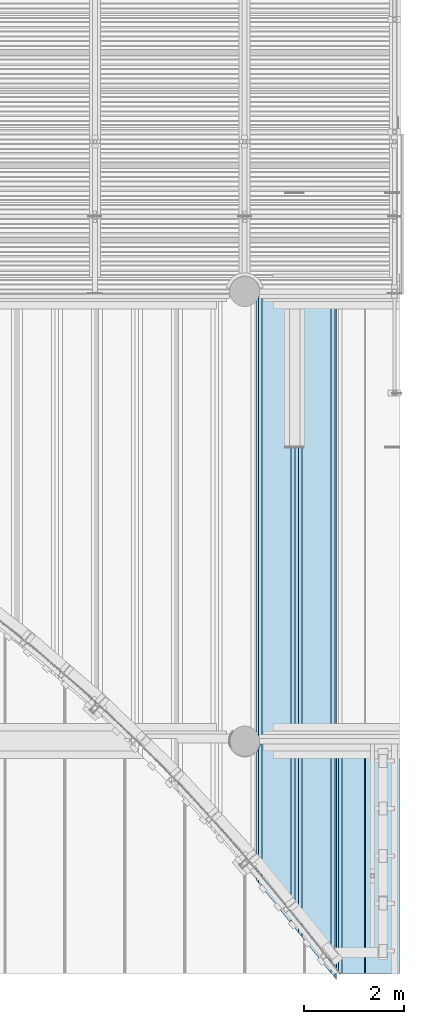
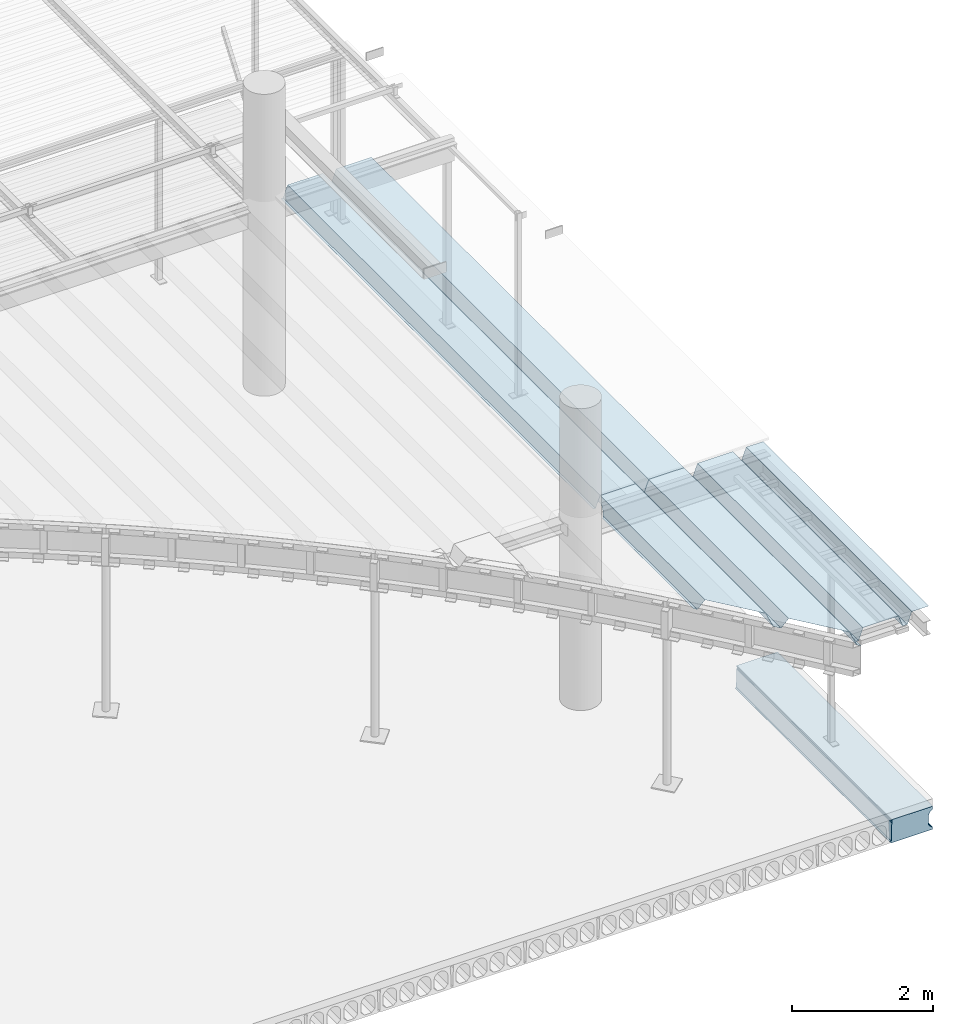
# One storey, part 73 of 98: 4 slabs.
"""IFC2X3 building model written with IfcOpenShell, lengths in millimetres."""

from ifc_helpers import new_model, entity, si_unit, converted_unit, derived_unit, direction, frame, origin_with_axes, place, context, subcontext, project, spatial, faceted_brep, material, type_object, element, save


model = new_model("IFC2X3")

# Units and contexts
model_context = context("Model", 3, precision=0.01, world=frame((0.0, 4.29681676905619e-09, 0.0)), true_north=direction((4.01073788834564e-13, 1.0)))
plan_context = context("Plan", 3, precision=0.01, world=frame((0.0, 4.29681676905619e-09, 0.0)), true_north=direction((4.01073788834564e-13, 1.0)))
body_context = subcontext(model_context, "Body", "Model", "MODEL_VIEW")
ifc_project = project(units=[converted_unit("PLANEANGLEUNIT", "DEGREE", entity("IfcPositiveLengthMeasure", 0.0174532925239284), si_unit("PLANEANGLEUNIT", "RADIAN"), dimensions=[0, 0, 0, 0, 0, 0, 0]), si_unit("AREAUNIT", "SQUARE_METRE"), si_unit("LENGTHUNIT", "METRE", prefix="MILLI"), si_unit("MASSUNIT", "GRAM", prefix="KILO"), si_unit("POWERUNIT", "WATT"), si_unit("PRESSUREUNIT", "PASCAL"), si_unit("FORCEUNIT", "NEWTON", prefix="KILO"), si_unit("ELECTRICCURRENTUNIT", "AMPERE"), si_unit("THERMODYNAMICTEMPERATUREUNIT", "DEGREE_CELSIUS"), si_unit("TIMEUNIT", "SECOND"), si_unit("VOLUMEUNIT", "CUBIC_METRE"), derived_unit("LINEARVELOCITYUNIT", [(si_unit("LENGTHUNIT", "METRE"), 1), (si_unit("TIMEUNIT", "SECOND"), -1)]), derived_unit("VOLUMETRICFLOWRATEUNIT", [(si_unit("VOLUMEUNIT", "CUBIC_METRE"), 1), (si_unit("TIMEUNIT", "SECOND"), -1)]), derived_unit("THERMALTRANSMITTANCEUNIT", [(si_unit("POWERUNIT", "WATT"), 1), (si_unit("THERMODYNAMICTEMPERATUREUNIT", "KELVIN"), -1), (si_unit("AREAUNIT", "SQUARE_METRE"), -1)])], contexts=[model_context, plan_context])

# Site, building, storey
site_placement = place(None, frame((0.0, -4.29681676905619e-09, 0.0), z_axis=(0.0, 0.0, 1.0), x_axis=(1.0, 0.0, 0.0)))
site = spatial("IfcSite", under=ifc_project, at=site_placement, Name="Gardermoen", CompositionType="ELEMENT")
building_placement = place(site_placement, frame((0.0, 4.29681676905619e-09, 0.0), z_axis=(0.0, 0.0, 1.0), x_axis=(1.0, 0.0, 0.0)))
building = spatial("IfcBuilding", under=site, at=building_placement, Name="TS", CompositionType="ELEMENT")
storey_placement = place(building_placement, origin_with_axes())
storey = spatial("IfcBuildingStorey", under=building, at=storey_placement, Name="D", CompositionType="ELEMENT", Elevation=0.0)

# Slabs
slab_type_1 = type_object("IfcSlabType", Name="HD400", PredefinedType="NOTDEFINED")
slab_1_placement = place(storey_placement, frame((531999.999766, 396739.995625, 203600.0), z_axis=(0.0, 0.0, 1.0), x_axis=(0.0, 1.0, 0.0)))
element("IfcSlab", 1, at=slab_1_placement, inside=storey, type_object=slab_type_1, Name="HULLDEKKE", ObjectType="HD400", PredefinedType="FLOOR", context=body_context, shape_type="Brep", body=[
    faceted_brep([(4105.68103395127, 600.0, -180.0), (4105.68103395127, 600.0, -190.0), (8520.0, 600.0, -190.0), (8520.0, 600.0, -180.0), (4105.68103395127, 585.0, -170.0), (8520.0, 585.0, -170.0), (4105.68103395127, 577.5, 145.0), (8520.0, 577.5, 145.0), (4105.68103395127, 570.0, 160.0), (8520.0, 570.0, 160.0), (4105.68103395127, 577.5, 175.0), (8520.0, 577.5, 175.0), (4105.68103395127, 577.5, 200.0), (8520.0, 577.5, 200.0), (8520.0, -95.0002340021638, 200.0), (4105.68103395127, -95.0002340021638, 200.0), (4105.68103395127, 583.380004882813, -200.0), (4105.68103395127, -95.0002340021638, -200.0), (8520.0, -95.0002340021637, -200.0), (8520.0, 583.380004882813, -200.0), (8520.0, -95.0002340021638, -160.0), (4105.68103395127, -95.0002340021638, -160.0), (4105.68103395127, -82.5, -160.0), (8520.0, -82.5, -160.0), (4105.68103395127, -94.8092647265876, 150.524499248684), (4105.68103395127, -95.0002340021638, 150.599015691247), (8520.0, -95.0002340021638, 150.599015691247), (8520.0, -94.8092647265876, 150.524499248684), (4105.68103395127, -86.4559182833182, 146.440797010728), (8520.0, -86.4559182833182, 146.440797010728), (4105.68103395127, -78.4683322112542, 141.681228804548), (8520.0, -78.4683322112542, 141.681228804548), (4105.68103395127, -70.9010698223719, 136.278307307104), (8520.0, -70.9010698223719, 136.278307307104), (4105.68103395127, -63.8058231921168, 130.268939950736), (8520.0, -63.8058231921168, 130.268939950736), (4105.68103395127, -57.2310600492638, 123.694176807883), (8520.0, -57.2310600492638, 123.694176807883), (4105.68103395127, -51.2216926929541, 116.598930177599), (8520.0, -51.2216926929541, 116.598930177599), (4105.68103395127, -45.8187711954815, 109.031667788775), (8520.0, -45.8187711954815, 109.031667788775), (4105.68103395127, -41.0592029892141, 101.044081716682), (8520.0, -41.0592029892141, 101.044081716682), (4105.68103395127, -36.9755007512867, 92.6907352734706), (8520.0, -36.9755007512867, 92.6907352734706), (4105.68103395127, -33.5955603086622, 84.028690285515), (8520.0, -33.5955603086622, 84.028690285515), (4105.68103395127, -30.942470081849, 75.1171173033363), (8520.0, -30.942470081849, 75.1171173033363), (4105.68103395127, -29.0343533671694, 66.0168914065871), (8520.0, -29.0343533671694, 66.0168914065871), (4105.68103395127, -27.8842445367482, 56.7901763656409), (8520.0, -27.8842445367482, 56.7901763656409), (4105.68103395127, -27.5, 47.5), (8520.0, -27.5, 47.5), (4105.68103395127, -27.5, -105.0), (8520.0, -27.5, -105.0), (4105.68103395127, 82.5, -160.0), (4105.68103395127, 197.5, -160.0), (8520.0, 197.5, -160.0), (8520.0, 82.5, -160.0), (4105.68103395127, 27.5000000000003, -105.0), (8520.0, 27.5, -105.0), (4105.68103395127, 27.5000000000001, 47.5000000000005), (8520.0, 27.5, 47.5), (4105.68103395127, 27.8842445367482, 56.7901763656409), (8520.0, 27.8842445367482, 56.7901763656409), (4105.68103395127, 29.0343533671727, 66.0168914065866), (8520.0, 29.0343533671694, 66.0168914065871), (4105.68103395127, 30.9424700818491, 75.1171173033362), (8520.0, 30.942470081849, 75.1171173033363), (4105.68103395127, 33.5955603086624, 84.0286902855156), (8520.0, 33.5955603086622, 84.028690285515), (4105.68103395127, 36.9755007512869, 92.6907352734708), (8520.0, 36.9755007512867, 92.6907352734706), (4105.68103395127, 41.0592029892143, 101.044081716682), (8520.0, 41.0592029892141, 101.044081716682), (4105.68103395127, 45.8187711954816, 109.031667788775), (8520.0, 45.8187711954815, 109.031667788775), (4105.68103395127, 51.2216926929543, 116.598930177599), (8520.0, 51.2216926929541, 116.598930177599), (4105.68103395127, 57.231060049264, 123.694176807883), (8520.0, 57.2310600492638, 123.694176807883), (4105.68103395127, 63.8058231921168, 130.268939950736), (8520.0, 63.8058231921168, 130.268939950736), (4105.68103395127, 70.9010698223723, 136.278307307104), (8520.0, 70.9010698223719, 136.278307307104), (4105.68103395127, 78.4683322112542, 141.681228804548), (8520.0, 78.4683322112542, 141.681228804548), (4105.68103395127, 86.4559182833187, 146.440797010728), (8520.0, 86.4559182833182, 146.440797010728), (4105.68103395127, 94.8092647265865, 150.524499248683), (8520.0, 94.8092647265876, 150.524499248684), (4105.68103395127, 103.471309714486, 153.904439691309), (8520.0, 103.471309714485, 153.904439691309), (4105.68103395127, 112.382882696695, 156.55752991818), (8520.0, 112.382882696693, 156.55752991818), (4105.68103395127, 121.483108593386, 158.465646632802), (8520.0, 121.483108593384, 158.465646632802), (4105.68103395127, 130.70982363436, 159.615755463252), (8520.0, 130.709823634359, 159.615755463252), (4105.68103395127, 140.0, 160.0), (8520.0, 140.0, 160.0), (4105.68103395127, 149.290176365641, 159.615755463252), (8520.0, 149.290176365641, 159.615755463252), (4105.68103395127, 158.516891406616, 158.465646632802), (8520.0, 158.516891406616, 158.465646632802), (4105.68103395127, 167.617117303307, 156.55752991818), (8520.0, 167.617117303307, 156.55752991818), (4105.68103395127, 176.528690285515, 153.904439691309), (8520.0, 176.528690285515, 153.904439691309), (4105.68103395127, 185.190735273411, 150.524499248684), (8520.0, 185.190735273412, 150.524499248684), (4105.68103395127, 193.544081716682, 146.440797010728), (8520.0, 193.544081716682, 146.440797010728), (4105.68103395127, 201.531667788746, 141.681228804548), (8520.0, 201.531667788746, 141.681228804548), (4105.68103395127, 209.098930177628, 136.278307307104), (8520.0, 209.098930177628, 136.278307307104), (4105.68103395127, 216.194176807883, 130.268939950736), (8520.0, 216.194176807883, 130.268939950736), (4105.68103395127, 222.768939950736, 123.694176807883), (8520.0, 222.768939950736, 123.694176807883), (4105.68103395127, 228.778307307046, 116.598930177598), (8520.0, 228.778307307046, 116.598930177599), (4105.68103395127, 234.181228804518, 109.031667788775), (8520.0, 234.181228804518, 109.031667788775), (4105.68103395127, 238.940797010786, 101.044081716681), (8520.0, 238.940797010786, 101.044081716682), (4105.68103395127, 243.024499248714, 92.6907352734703), (8520.0, 243.024499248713, 92.6907352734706), (4105.68103395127, 246.404439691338, 84.0286902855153), (8520.0, 246.404439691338, 84.028690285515), (4105.68103395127, 249.057529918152, 75.1171173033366), (8520.0, 249.057529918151, 75.1171173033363), (4105.68103395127, 250.96564663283, 66.0168914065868), (8520.0, 250.965646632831, 66.0168914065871), (4105.68103395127, 252.115755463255, 56.7901763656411), (8520.0, 252.115755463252, 56.7901763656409), (4105.68103395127, 252.5, 47.4999999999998), (8520.0, 252.5, 47.5), (4105.68103395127, 252.5, -105.0), (8520.0, 252.5, -105.0), (4105.68103395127, 362.5, -160.0), (4105.68103395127, 477.5, -160.0), (8520.0, 477.5, -160.0), (8520.0, 362.5, -160.0), (4105.68103395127, 307.5, -105.0), (8520.0, 307.5, -105.0), (4105.68103395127, 307.5, 47.5000000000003), (8520.0, 307.5, 47.5), (4105.68103395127, 307.884244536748, 56.7901763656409), (8520.0, 307.884244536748, 56.7901763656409), (4105.68103395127, 309.03435336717, 66.0168914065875), (8520.0, 309.034353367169, 66.0168914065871), (4105.68103395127, 310.942470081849, 75.1171173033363), (8520.0, 310.942470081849, 75.1171173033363), (4105.68103395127, 313.595560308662, 84.028690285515), (8520.0, 313.595560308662, 84.028690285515), (4105.68103395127, 316.975500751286, 92.6907352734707), (8520.0, 316.975500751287, 92.6907352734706), (4105.68103395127, 321.059202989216, 101.044081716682), (8520.0, 321.059202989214, 101.044081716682), (4105.68103395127, 325.818771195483, 109.031667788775), (8520.0, 325.818771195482, 109.031667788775), (4105.68103395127, 331.221692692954, 116.598930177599), (8520.0, 331.221692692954, 116.598930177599), (4105.68103395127, 337.231060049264, 123.694176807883), (8520.0, 337.231060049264, 123.694176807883), (4105.68103395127, 343.805823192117, 130.268939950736), (8520.0, 343.805823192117, 130.268939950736), (4105.68103395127, 350.901069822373, 136.278307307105), (8520.0, 350.901069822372, 136.278307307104), (4105.68103395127, 358.468332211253, 141.681228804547), (8520.0, 358.468332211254, 141.681228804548), (4105.68103395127, 366.455918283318, 146.440797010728), (8520.0, 366.455918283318, 146.440797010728), (4105.68103395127, 374.809264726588, 150.524499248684), (8520.0, 374.809264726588, 150.524499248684), (4105.68103395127, 383.471309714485, 153.904439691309), (8520.0, 383.471309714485, 153.904439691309), (4105.68103395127, 392.382882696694, 156.55752991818), (8520.0, 392.382882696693, 156.55752991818), (4105.68103395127, 401.483108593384, 158.465646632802), (8520.0, 401.483108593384, 158.465646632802), (4105.68103395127, 410.70982363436, 159.615755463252), (8520.0, 410.709823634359, 159.615755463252), (4105.68103395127, 420.0, 160.0), (8520.0, 420.0, 160.0), (4105.68103395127, 429.290176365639, 159.615755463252), (8520.0, 429.290176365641, 159.615755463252), (4105.68103395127, 438.516891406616, 158.465646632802), (8520.0, 438.516891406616, 158.465646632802), (4105.68103395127, 447.617117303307, 156.55752991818), (8520.0, 447.617117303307, 156.55752991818), (4105.68103395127, 456.528690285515, 153.904439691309), (8520.0, 456.528690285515, 153.904439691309), (4105.68103395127, 465.190735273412, 150.524499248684), (8520.0, 465.190735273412, 150.524499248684), (4105.68103395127, 473.544081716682, 146.440797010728), (8520.0, 473.544081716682, 146.440797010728), (4105.68103395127, 481.531667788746, 141.681228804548), (8520.0, 481.531667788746, 141.681228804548), (4105.68103395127, 489.098930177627, 136.278307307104), (8520.0, 489.098930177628, 136.278307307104), (4105.68103395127, 496.194176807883, 130.268939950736), (8520.0, 496.194176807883, 130.268939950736), (4105.68103395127, 502.768939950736, 123.694176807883), (8520.0, 502.768939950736, 123.694176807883), (4105.68103395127, 508.778307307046, 116.5989301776), (8520.0, 508.778307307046, 116.598930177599), (4105.68103395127, 514.181228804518, 109.031667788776), (8520.0, 514.181228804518, 109.031667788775), (4105.68103395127, 518.940797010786, 101.044081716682), (8520.0, 518.940797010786, 101.044081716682), (4105.68103395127, 523.024499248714, 92.6907352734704), (8520.0, 523.024499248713, 92.6907352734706), (4105.68103395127, 526.404439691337, 84.028690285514), (8520.0, 526.404439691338, 84.028690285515), (4105.68103395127, 529.057529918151, 75.1171173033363), (8520.0, 529.057529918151, 75.1171173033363), (4105.68103395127, 530.965646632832, 66.0168914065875), (8520.0, 530.965646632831, 66.0168914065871), (4105.68103395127, 532.115755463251, 56.7901763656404), (8520.0, 532.115755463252, 56.7901763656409), (4105.68103395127, 532.499999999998, 47.5000000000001), (8520.0, 532.5, 47.5), (4105.68103395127, 532.5, -105.0), (8520.0, 532.5, -105.0)], [[[0, 1, 2, 3]], [[4, 0, 3, 5]], [[6, 4, 5, 7]], [[8, 6, 7, 9]], [[10, 8, 9, 11]], [[12, 10, 11, 13]], [[14, 15, 12, 13]], [[16, 17, 18, 19]], [[1, 16, 19, 2]], [[20, 21, 22, 23]], [[24, 25, 26, 27]], [[28, 24, 27, 29]], [[30, 28, 29, 31]], [[32, 30, 31, 33]], [[34, 32, 33, 35]], [[36, 34, 35, 37]], [[38, 36, 37, 39]], [[40, 38, 39, 41]], [[42, 40, 41, 43]], [[44, 42, 43, 45]], [[46, 44, 45, 47]], [[48, 46, 47, 49]], [[50, 48, 49, 51]], [[52, 50, 51, 53]], [[54, 52, 53, 55]], [[56, 54, 55, 57]], [[22, 56, 57, 23]], [[58, 59, 60, 61]], [[62, 58, 61, 63]], [[64, 62, 63, 65]], [[66, 64, 65, 67]], [[68, 66, 67, 69]], [[70, 68, 69, 71]], [[72, 70, 71, 73]], [[74, 72, 73, 75]], [[76, 74, 75, 77]], [[78, 76, 77, 79]], [[80, 78, 79, 81]], [[82, 80, 81, 83]], [[84, 82, 83, 85]], [[86, 84, 85, 87]], [[88, 86, 87, 89]], [[90, 88, 89, 91]], [[92, 90, 91, 93]], [[94, 92, 93, 95]], [[96, 94, 95, 97]], [[98, 96, 97, 99]], [[100, 98, 99, 101]], [[102, 100, 101, 103]], [[104, 102, 103, 105]], [[106, 104, 105, 107]], [[108, 106, 107, 109]], [[110, 108, 109, 111]], [[112, 110, 111, 113]], [[114, 112, 113, 115]], [[116, 114, 115, 117]], [[118, 116, 117, 119]], [[120, 118, 119, 121]], [[122, 120, 121, 123]], [[124, 122, 123, 125]], [[126, 124, 125, 127]], [[128, 126, 127, 129]], [[130, 128, 129, 131]], [[132, 130, 131, 133]], [[134, 132, 133, 135]], [[136, 134, 135, 137]], [[138, 136, 137, 139]], [[140, 138, 139, 141]], [[142, 140, 141, 143]], [[59, 142, 143, 60]], [[144, 145, 146, 147]], [[148, 144, 147, 149]], [[150, 148, 149, 151]], [[152, 150, 151, 153]], [[154, 152, 153, 155]], [[156, 154, 155, 157]], [[158, 156, 157, 159]], [[160, 158, 159, 161]], [[162, 160, 161, 163]], [[164, 162, 163, 165]], [[166, 164, 165, 167]], [[168, 166, 167, 169]], [[170, 168, 169, 171]], [[172, 170, 171, 173]], [[174, 172, 173, 175]], [[176, 174, 175, 177]], [[178, 176, 177, 179]], [[180, 178, 179, 181]], [[182, 180, 181, 183]], [[184, 182, 183, 185]], [[186, 184, 185, 187]], [[188, 186, 187, 189]], [[190, 188, 189, 191]], [[192, 190, 191, 193]], [[194, 192, 193, 195]], [[196, 194, 195, 197]], [[198, 196, 197, 199]], [[200, 198, 199, 201]], [[202, 200, 201, 203]], [[204, 202, 203, 205]], [[206, 204, 205, 207]], [[208, 206, 207, 209]], [[210, 208, 209, 211]], [[212, 210, 211, 213]], [[214, 212, 213, 215]], [[216, 214, 215, 217]], [[218, 216, 217, 219]], [[220, 218, 219, 221]], [[222, 220, 221, 223]], [[224, 222, 223, 225]], [[226, 224, 225, 227]], [[228, 226, 227, 229]], [[145, 228, 229, 146]], [[18, 20, 23, 57, 55, 53, 51, 49, 47, 45, 43, 41, 39, 37, 35, 33, 31, 29, 27, 26, 14, 13, 11, 9, 7, 5, 3, 2, 19], [147, 146, 229, 227, 225, 223, 221, 219, 217, 215, 213, 211, 209, 207, 205, 203, 201, 199, 197, 195, 193, 191, 189, 187, 185, 183, 181, 179, 177, 175, 173, 171, 169, 167, 165, 163, 161, 159, 157, 155, 153, 151, 149], [61, 60, 143, 141, 139, 137, 135, 133, 131, 129, 127, 125, 123, 121, 119, 117, 115, 113, 111, 109, 107, 105, 103, 101, 99, 97, 95, 93, 91, 89, 87, 85, 83, 81, 79, 77, 75, 73, 71, 69, 67, 65, 63]], [[15, 14, 26, 25]], [[21, 20, 18, 17]], [[17, 16, 1, 0, 4, 6, 8, 10, 12, 15, 25, 24, 28, 30, 32, 34, 36, 38, 40, 42, 44, 46, 48, 50, 52, 54, 56, 22, 21]]], orient=[[False], [False], [False], [False], [False], [False], [False], [False], [False], [False], [False], [False], [False], [False], [False], [False], [False], [False], [False], [False], [False], [False], [False], [False], [False], [False], [False], [False], [False], [False], [False], [False], [False], [False], [False], [False], [False], [False], [False], [False], [False], [False], [False], [False], [False], [False], [False], [False], [False], [False], [False], [False], [False], [False], [False], [False], [False], [False], [False], [False], [False], [False], [False], [False], [False], [False], [False], [False], [False], [False], [False], [False], [False], [False], [False], [False], [False], [False], [False], [False], [False], [False], [False], [False], [False], [False], [False], [False], [False], [False], [False], [False], [False], [False], [False], [False], [False], [False], [False], [False], [False], [False], [False], [False], [False], [False], [False], [False], [False], [False], [False], [False], [False], [False, False, False], [False], [False], [False]]),
])
ifc_material = material(Name="STEEL/S355")
slab_type_2 = type_object("IfcSlabType", Name="PLANNJA200", PredefinedType="NOTDEFINED")
slab_2_placement = place(storey_placement, frame((530040.35, 402675.61, 207199.0), z_axis=(0.0, 0.0, 1.0), x_axis=(0.0, 1.0, 0.0)))
element("IfcSlab", 2, at=slab_2_placement, inside=storey, type_object=slab_type_2, material=ifc_material, Name="STÅLTAK", ObjectType="PLANNJA200", PredefinedType="FLOOR", context=body_context, shape_type="Brep", body=[
    faceted_brep([(2638.83808769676, 779.63600825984, -98.5), (2638.83808769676, 779.63600825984, -99.5), (2613.88441121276, 800.0, -99.5), (2613.88441121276, 800.0, -98.5), (2674.73026522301, 757.502703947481, -83.0980813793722), (2674.73026522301, 757.502703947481, -85.9820723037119), (2666.6264667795, 762.5, -99.5), (2665.49704198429, 763.196472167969, -98.5), (2713.22132697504, 740.281503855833, -36.5139016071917), (2713.22132697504, 740.281503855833, -39.3978925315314), (2753.64275200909, 728.271509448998, -4.02628544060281), (2753.64275200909, 728.271509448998, -6.91027636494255), (2795.29249242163, 721.681312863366, 13.8005152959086), (2795.29249242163, 721.681312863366, 10.9165243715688), (2837.44716666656, 720.62537403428, 16.6568809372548), (2837.44716666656, 720.62537403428, 13.772890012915), (2879.3746233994, 725.122032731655, 4.49320151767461), (2879.36999999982, 725.122032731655, 1.60921059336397), (29.8540997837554, 800.0, -99.5), (-16.7752055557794, 762.5, -99.5), (-107.791222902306, 689.303527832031, 98.5), (-827.259100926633, 110.696464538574, 98.5), (-918.275108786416, 37.5, -99.5), (-1011.53371946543, -37.5, -99.5), (-1102.54972732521, -110.696464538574, 98.5), (-1822.01760534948, -689.303527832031, 98.5), (-1913.03362269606, -762.5, -99.5), (-1959.66292803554, -800.0, -99.5), (-1959.66292803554, -800.0, -98.5), (-1913.89964971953, -763.196472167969, -98.5), (-1822.88363237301, -690.0, 99.5), (-1101.68370978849, -110.0, 99.5), (-1010.6677019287, -36.8035354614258, -98.5), (-919.141126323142, 36.8035354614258, -98.5), (-828.125118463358, 110.0, 99.5), (-106.925195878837, 690.0, 99.5), (-15.9091785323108, 763.196472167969, -98.5), (29.8540997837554, 800.0, -98.5), (2879.36999999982, 689.303527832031, 98.5), (2879.36999999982, 110.696464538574, 98.5), (2879.36999999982, 37.5, -99.5), (2879.36999999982, -37.5, -99.5), (2879.36999999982, -110.696464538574, 98.5), (2879.36999999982, -689.303527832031, 98.5), (2879.36999999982, -762.5, -99.5), (2879.36999999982, -800.0, -99.5), (2879.36999999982, -800.0, -98.5), (2879.36999999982, -763.196472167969, -98.5), (2879.36999999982, -690.0, 99.5), (2879.36999999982, -110.0, 99.5), (2879.36999999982, -36.8035354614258, -98.5), (2879.36999999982, 36.8035354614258, -98.5), (2879.36999999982, 110.0, 99.5), (2879.36999999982, 690.0, 99.5)], [[[0, 1, 2, 3]], [[4, 5, 6, 1, 0, 7]], [[8, 9, 5, 4]], [[10, 11, 9, 8]], [[12, 13, 11, 10]], [[14, 15, 13, 12]], [[16, 17, 15, 14]], [[18, 19, 20, 21, 22, 23, 24, 25, 26, 27, 28, 29, 30, 31, 32, 33, 34, 35, 36, 37]], [[21, 20, 38, 39]], [[22, 21, 39, 40]], [[23, 22, 40, 41]], [[24, 23, 41, 42]], [[25, 24, 42, 43]], [[26, 25, 43, 44]], [[27, 26, 44, 45]], [[28, 27, 45, 46]], [[29, 28, 46, 47]], [[30, 29, 47, 48]], [[31, 30, 48, 49]], [[32, 31, 49, 50]], [[33, 32, 50, 51]], [[34, 33, 51, 52]], [[35, 34, 52, 53]], [[12, 10, 8, 4, 7, 36, 35, 53, 16, 14]], [[3, 37, 36, 7, 0]], [[18, 37, 3, 2]], [[19, 18, 2, 1, 6]], [[38, 20, 19, 6, 5, 9, 11, 13, 15, 17]], [[53, 52, 51, 50, 49, 48, 47, 46, 45, 44, 43, 42, 41, 40, 39, 38, 17, 16]]]),
])
slab_3_placement = place(storey_placement, frame((530040.35, 405554.98, 207199.0), z_axis=(0.0, 0.0, 1.0), x_axis=(0.0, 1.0, 0.0)))
element("IfcSlab", 3, at=slab_3_placement, inside=storey, type_object=slab_type_2, material=ifc_material, Name="STÅLTAK", ObjectType="PLANNJA200", PredefinedType="FLOOR", context=body_context, shape_type="Brep", body=[
    faceted_brep([(0.0, 800.0, -98.5), (0.0, 763.196472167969, -98.5), (8889.99999999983, 763.196472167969, -98.5), (8889.99999999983, 800.0, -98.5), (0.0, 690.0, 99.5), (8889.99999999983, 690.0, 99.5), (0.0, 110.0, 99.5), (8889.99999999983, 110.0, 99.5), (0.0, 36.8035354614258, -98.5), (8889.99999999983, 36.8035354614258, -98.5), (0.0, -36.8035354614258, -98.5), (8889.99999999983, -36.8035354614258, -98.5), (0.0, -110.0, 99.5), (8889.99999999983, -110.0, 99.5), (0.0, -690.0, 99.5), (8889.99999999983, -690.0, 99.5), (0.0, -763.196472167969, -98.5), (8889.99999999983, -763.196472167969, -98.5), (0.0, -800.0, -98.5), (8889.99999999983, -800.0, -98.5), (0.0, -800.0, -99.5), (8889.99999999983, -800.0, -99.5), (0.0, -762.5, -99.5), (8889.99999999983, -762.5, -99.5), (0.0, -689.303527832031, 98.5), (8889.99999999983, -689.303527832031, 98.5), (0.0, -110.696464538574, 98.5), (8889.99999999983, -110.696464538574, 98.5), (0.0, -37.5, -99.5), (8889.99999999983, -37.5, -99.5), (0.0, 37.5, -99.5), (8889.99999999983, 37.5, -99.5), (0.0, 110.696464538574, 98.5), (8889.99999999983, 110.696464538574, 98.5), (0.0, 689.303527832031, 98.5), (8889.99999999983, 689.303527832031, 98.5), (0.0, 762.5, -99.5), (8889.99999999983, 762.5, -99.5), (0.0, 800.0, -99.5), (8889.99999999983, 800.0, -99.5)], [[[0, 1, 2, 3]], [[1, 4, 5, 2]], [[4, 6, 7, 5]], [[6, 8, 9, 7]], [[8, 10, 11, 9]], [[10, 12, 13, 11]], [[12, 14, 15, 13]], [[14, 16, 17, 15]], [[16, 18, 19, 17]], [[18, 20, 21, 19]], [[20, 22, 23, 21]], [[22, 24, 25, 23]], [[24, 26, 27, 25]], [[26, 28, 29, 27]], [[28, 30, 31, 29]], [[30, 32, 33, 31]], [[32, 34, 35, 33]], [[34, 36, 37, 35]], [[36, 38, 39, 37]], [[38, 0, 3, 39]], [[5, 7, 9, 11, 13, 15, 17, 19, 21, 23, 25, 27, 29, 31, 33, 35, 37, 39, 3, 2]], [[38, 36, 34, 32, 30, 28, 26, 24, 22, 20, 18, 16, 14, 12, 10, 8, 6, 4, 1, 0]]]),
])
slab_4_placement = place(storey_placement, frame((531640.35, 400683.33, 207199.0), z_axis=(0.0, 0.0, 1.0), x_axis=(0.0, 1.0, 0.0)))
element("IfcSlab", 4, at=slab_4_placement, inside=storey, type_object=slab_type_2, Name="STÅLTAK", ObjectType="PLANNJA200", PredefinedType="FLOOR", context=body_context, shape_type="Brep", body=[
    faceted_brep([(162.346658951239, -36.8035354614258, -98.5), (162.346658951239, 36.8035354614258, -98.5), (4871.64999999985, 36.8035354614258, -98.5), (4871.64999999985, -36.8035354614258, -98.5), (162.346658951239, 110.0, 99.5), (4871.64999999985, 110.0, 99.5), (162.346658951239, 690.0, 99.5), (4871.64999999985, 690.0, 99.5), (162.346658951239, 763.196472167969, -98.5), (4871.64999999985, 763.196472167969, -98.5), (162.346658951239, 800.0, -98.5), (4871.64999999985, 800.0, -98.5), (162.346658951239, 800.0, -99.5), (4871.64999999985, 800.0, -99.5), (162.346658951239, 762.5, -99.5), (4871.64999999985, 762.5, -99.5), (162.346658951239, 689.303527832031, 98.5), (4871.64999999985, 689.303527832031, 98.5), (162.346658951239, 110.696464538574, 98.5), (4871.64999999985, 110.696464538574, 98.5), (162.346658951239, 37.5, -99.5), (4871.64999999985, 37.5, -99.5), (162.346658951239, -37.5, -99.5), (4871.64999999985, -37.5, -99.5), (162.346658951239, -110.696464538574, 98.5), (4871.64999999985, -110.696464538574, 98.5), (162.346658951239, -110.0, 99.5), (4871.64999999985, -110.0, 99.5), (4871.64999999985, -390.0, 98.5), (4871.64999999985, -390.0, 99.5), (162.346658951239, -390.0, 98.5), (162.346658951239, -390.0, 99.5)], [[[0, 1, 2, 3]], [[1, 4, 5, 2]], [[4, 6, 7, 5]], [[6, 8, 9, 7]], [[8, 10, 11, 9]], [[10, 12, 13, 11]], [[12, 14, 15, 13]], [[14, 16, 17, 15]], [[16, 18, 19, 17]], [[18, 20, 21, 19]], [[20, 22, 23, 21]], [[22, 24, 25, 23]], [[26, 0, 3, 27]], [[28, 29, 27, 3, 2, 5, 7, 9, 11, 13, 15, 17, 19, 21, 23, 25]], [[24, 30, 28, 25]], [[31, 26, 27, 29]], [[30, 31, 29, 28]], [[26, 31, 30, 24, 22, 20, 18, 16, 14, 12, 10, 8, 6, 4, 1, 0]]], orient=[[False], [False], [False], [False], [False], [False], [False], [False], [False], [False], [False], [False], [False], [False], [False], [False], [False], [False]]),
])

save(model, "model.ifc")
